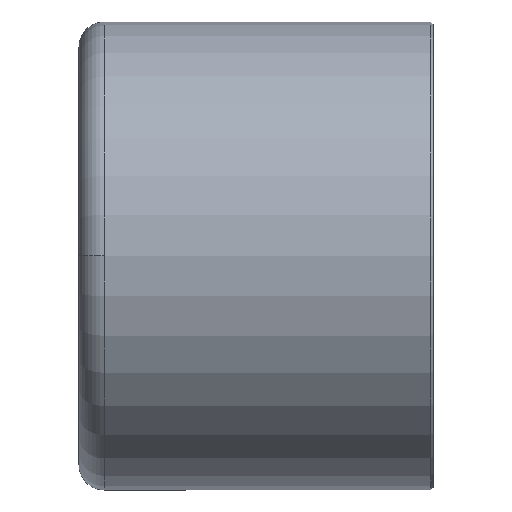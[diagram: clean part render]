
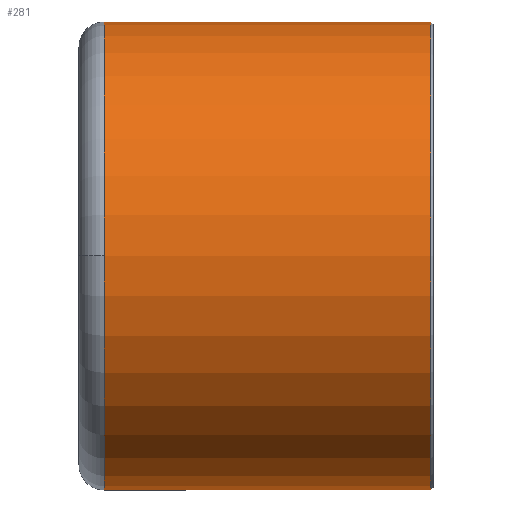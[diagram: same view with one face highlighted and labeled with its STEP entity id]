
A CAD part, top view. The second image highlights one B-rep face of the part: STEP entity #281.
In plain terms, the highlighted cylindrical face has radius 18.5 mm (diameter 37 mm), a partial arc.
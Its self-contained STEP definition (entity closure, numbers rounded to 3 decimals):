
#78=CARTESIAN_POINT('',(-12.5,0.,18.5));
#79=VERTEX_POINT('',#78);
#87=CARTESIAN_POINT('',(-12.5,18.5,0.0));
#88=VERTEX_POINT('',#87);
#89=CARTESIAN_POINT('',(-12.5,0.,0.0));
#90=DIRECTION('',(1.0,0.0,0.0));
#91=DIRECTION('',(0.0,1.0,0.0));
#92=AXIS2_PLACEMENT_3D('',#89,#90,#91);
#93=CIRCLE('',#92,18.5);
#94=EDGE_CURVE('',#88,#79,#93,.T.);
#241=CARTESIAN_POINT('',(0.5,0.,0.0));
#242=DIRECTION('',(1.0,0.,0.0));
#243=DIRECTION('',(0.0,1.0,0.0));
#244=AXIS2_PLACEMENT_3D('',#241,#242,#243);
#245=CYLINDRICAL_SURFACE('',#244,18.5);
#246=CARTESIAN_POINT('',(13.3,18.5,0.));
#247=VERTEX_POINT('',#246);
#248=CARTESIAN_POINT('',(-12.5,18.5,0.0));
#249=DIRECTION('',(1.0,0.0,0.0));
#250=VECTOR('',#249,25.8);
#251=LINE('',#248,#250);
#252=EDGE_CURVE('',#88,#247,#251,.T.);
#253=ORIENTED_EDGE('',*,*,#252,.F.);
#254=ORIENTED_EDGE('',*,*,#94,.T.);
#255=CARTESIAN_POINT('',(-12.5,-18.5,0.));
#256=VERTEX_POINT('',#255);
#257=CARTESIAN_POINT('',(-12.5,0.,0.0));
#258=DIRECTION('',(1.0,0.0,0.0));
#259=DIRECTION('',(0.0,1.0,0.0));
#260=AXIS2_PLACEMENT_3D('',#257,#258,#259);
#261=CIRCLE('',#260,18.5);
#262=EDGE_CURVE('',#79,#256,#261,.T.);
#263=ORIENTED_EDGE('',*,*,#262,.T.);
#264=CARTESIAN_POINT('',(13.3,-18.5,0.));
#265=VERTEX_POINT('',#264);
#266=CARTESIAN_POINT('',(13.3,-18.5,0.));
#267=DIRECTION('',(-1.0,0.0,0.0));
#268=VECTOR('',#267,25.8);
#269=LINE('',#266,#268);
#270=EDGE_CURVE('',#265,#256,#269,.T.);
#271=ORIENTED_EDGE('',*,*,#270,.F.);
#272=CARTESIAN_POINT('',(13.3,0.,0.0));
#273=DIRECTION('',(1.0,0.0,0.0));
#274=DIRECTION('',(0.0,1.0,0.0));
#275=AXIS2_PLACEMENT_3D('',#272,#273,#274);
#276=CIRCLE('',#275,18.5);
#277=EDGE_CURVE('',#247,#265,#276,.T.);
#278=ORIENTED_EDGE('',*,*,#277,.F.);
#279=EDGE_LOOP('',(#253,#254,#263,#271,#278));
#280=FACE_OUTER_BOUND('',#279,.T.);
#281=ADVANCED_FACE('',(#280),#245,.T.);
